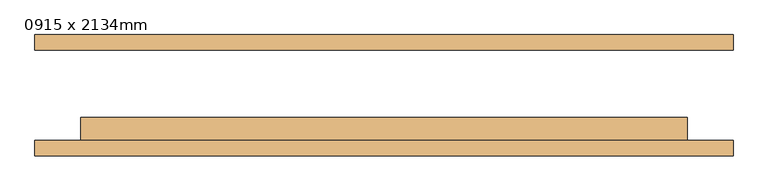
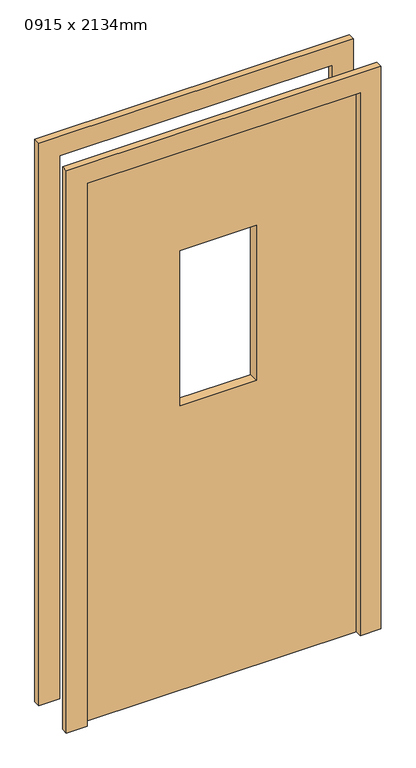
"""IFC4 building model written with IfcOpenShell, lengths in millimetres: door geometry, M_Bifold-2 Panel - Cópia : 0915 x 2134mm."""

from ifc_helpers import new_model, si_unit, frame, origin, place, context, project, spatial, polyline, outline, extrude, source, transform, mapped, element, save


def door_0915_x_2134mm_82d32b8f(model_context):
    return source(origin(), model_context, "Body", "SweptSolid", [
        extrude(outline(polyline([(2176.0, -576.0), (0.0, -576.0), (0.0, -500.0), (2100.0, -500.0), (2100.0, 500.0), (0.0, 500.0), (0.0, 576.0), (2176.0, 576.0), (2176.0, -576.0)])), frame((0.0, -100.0, 0.0), z_axis=(0.0, 1.0, 0.0), x_axis=(0.0, 0.0, 1.0)), (0.0, 0.0, 1.0), 25.0),
        extrude(outline(polyline([(2176.0, 576.0), (2176.0, -576.0), (0.0, -576.0), (0.0, -500.0), (2100.0, -500.0), (2100.0, 500.0), (0.0, 500.0), (0.0, 576.0), (2176.0, 576.0)])), frame((0.0, 75.0, 0.0), z_axis=(0.0, 1.0, 0.0), x_axis=(0.0, 0.0, 1.0)), (0.0, 0.0, 1.0), 25.0),
        extrude(outline(polyline([(2100.0, 500.0), (2100.0, -500.0), (0.0, -500.0), (0.0, 500.0), (2100.0, 500.0)]), holes=[polyline([(1700.0, -145.6411312), (1700.0, 134.3588688), (1100.0, 134.3588688), (1100.0, -145.6411312), (1700.0, -145.6411312)])]), frame((0.0, -75.0, 0.0), z_axis=(0.0, 1.0, 0.0), x_axis=(0.0, 0.0, 1.0)), (0.0, 0.0, 1.0), 38.1),
    ])


if __name__ == "__main__":
    model = new_model("IFC4")
    model_context = context("Model", 3, world=origin())
    ifc_project = project(units=[si_unit("LENGTHUNIT", "METRE", prefix="MILLI")], contexts=[model_context])
    site = spatial("IfcSite", under=ifc_project)
    building = spatial("IfcBuilding", under=site)
    placement = place(None, origin())
    door_0915_x_2134mm_shape = door_0915_x_2134mm_82d32b8f(model_context)
    element("IfcDoor", 1, ObjectType="M_Bifold-2 Panel - Cópia : 0915 x 2134mm", at=placement, inside=building, context=model_context, shape_type="MappedRepresentation", body=[
        mapped(door_0915_x_2134mm_shape, transform((0.0, 0.0, 0.0), x_axis=(1.0, 0.0, 0.0), y_axis=(0.0, 1.0, 0.0), z_axis=(0.0, 0.0, 1.0))),
    ])
    save(model, "model.ifc")
